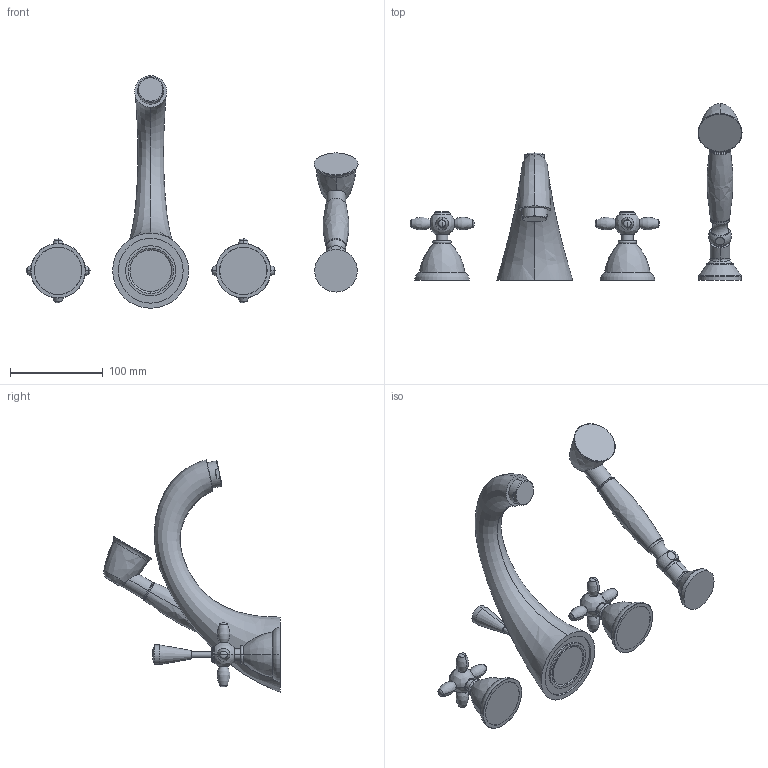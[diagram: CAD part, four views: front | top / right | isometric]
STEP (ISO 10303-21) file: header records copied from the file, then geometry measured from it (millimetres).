
FILE_DESCRIPTION((''),'2;1');
FILE_NAME('F5014_FILE_3D','2013-06-17T',('ivanv'),(''),'PRO/ENGINEER BY PARAMETRIC TECHNOLOGY CORPORATION, 2012130','PRO/ENGINEER BY PARAMETRIC TECHNOLOGY CORPORATION, 2012130','');
FILE_SCHEMA(('CONFIG_CONTROL_DESIGN'));
Length unit declared in the file: millimetre
Products named in the file (1): F5014_FILE_3D
Bounding box: 358.39 x 190.74 x 251 mm (x, y, z)
Volume: 396025.1 mm3; surface area: 163942.5 mm2
Topology: 7 solids, 7 shells, 489 faces, 1165 edges, 706 vertices
Faces by surface type: plane 187, cylinder 104, torus 83, cone 52, revolution 32, bspline 26, sphere 5
Entity records: 19077 total; most frequent: CARTESIAN_POINT 7680, DIRECTION 2473, ORIENTED_EDGE 2294, EDGE_CURVE 1147, AXIS2_PLACEMENT_3D 971, VERTEX_POINT 706, EDGE_LOOP 541, CIRCLE 539
